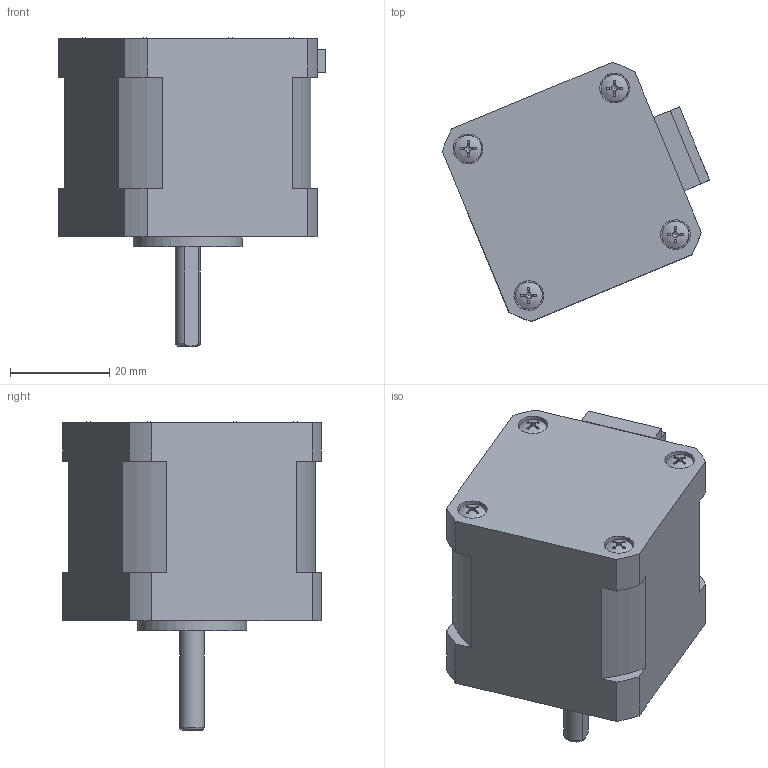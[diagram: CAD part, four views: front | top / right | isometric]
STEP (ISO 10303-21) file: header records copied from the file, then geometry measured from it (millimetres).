
FILE_DESCRIPTION(/* description */ (''),/* implementation_level */ '2;1');
FILE_NAME(/* name */ 'JK42HS40-1704XA-01F.prt.step',/* time_stamp */ '2019-12-06T11:32:26+08:00',/* author */ (''),/* organization */ (''),/* preprocessor_version */ 'ST-DEVELOPER v14',/* originating_system */ 'SIEMENS PLM Software NX 8.0',/* authorisation */ '');
FILE_SCHEMA (('AUTOMOTIVE_DESIGN { 1 0 10303 214 3 1 1 1 }'));
Products named in the file (3): M3-luoding; dianjizhuti; JK42HS40-1704XA-01F
Assembly tree (5 placements, depth 2):
  JK42HS40-1704XA-01F
    dianjizhuti
    M3-luoding  x4
Bounding box: 53.93 x 52.22 x 62.11 mm (x, y, z)
Volume: 68946.9 mm3; surface area: 13413.5 mm2
Topology: 14 solids, 14 shells, 261 faces, 645 edges, 422 vertices
Faces by surface type: plane 137, cylinder 55, cone 32, torus 21, bspline 12, sphere 4
Full cylindrical faces by diameter (mm): 0.2 x5, 2.458 x4, 2.459 x4, 2.675 x4, 3 x4, 3.5 x4, 5.45 x4, 6 x4, 22.03 x1
Entity records: 41743 total; most frequent: CARTESIAN_POINT 38465, ORIENTED_EDGE 632, DIRECTION 615, EDGE_CURVE 316, AXIS2_PLACEMENT_3D 244, VERTEX_POINT 224, EDGE_LOOP 187, ADVANCED_FACE 147
